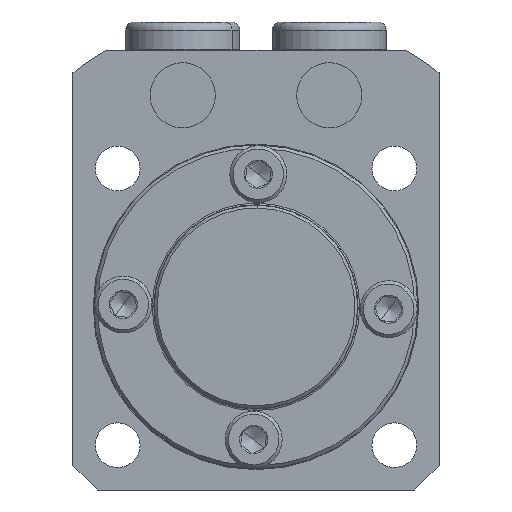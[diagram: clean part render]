
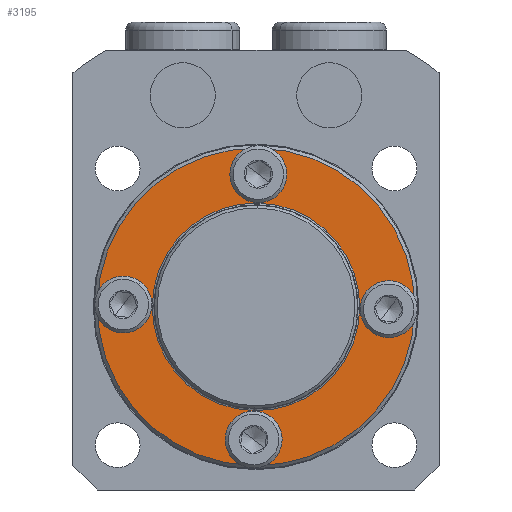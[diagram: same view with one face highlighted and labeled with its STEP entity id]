
A CAD part, front view. The second image highlights one B-rep face of the part: STEP entity #3195.
In plain terms, the highlighted planar face has unit normal (0, -1, 0).
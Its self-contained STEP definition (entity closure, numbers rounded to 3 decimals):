
#98 = EDGE_LOOP ( 'NONE', ( #1171, #1172 ) ) ;
#99 = EDGE_LOOP ( 'NONE', ( #1163, #1164 ) ) ;
#104 = EDGE_LOOP ( 'NONE', ( #1173, #1174 ) ) ;
#111 = EDGE_LOOP ( 'NONE', ( #1165, #1166 ) ) ;
#112 = EDGE_LOOP ( 'NONE', ( #1169, #1170 ) ) ;
#113 = EDGE_LOOP ( 'NONE', ( #1167, #1168 ) ) ;
#965 = CARTESIAN_POINT ( 'NONE',  ( 0., -4., -12.75 ) ) ;
#970 = CARTESIAN_POINT ( 'NONE',  ( 0., -4., 18.55 ) ) ;
#986 = CARTESIAN_POINT ( 'NONE',  ( 0., -4., 19.5 ) ) ;
#993 = CARTESIAN_POINT ( 'NONE',  ( -16.3, -4., -2.25 ) ) ;
#994 = CARTESIAN_POINT ( 'NONE',  ( 16.3, -4., 2.25 ) ) ;
#999 = CARTESIAN_POINT ( 'NONE',  ( 16.3, -4., -2.25 ) ) ;
#1032 = CARTESIAN_POINT ( 'NONE',  ( 0., -4., -14.05 ) ) ;
#1035 = CARTESIAN_POINT ( 'NONE',  ( 0., -4., -18.55 ) ) ;
#1041 = CARTESIAN_POINT ( 'NONE',  ( -16.3, -4., 2.25 ) ) ;
#1045 = CARTESIAN_POINT ( 'NONE',  ( 0., -4., -19.5 ) ) ;
#1051 = CARTESIAN_POINT ( 'NONE',  ( 0., -4., 14.05 ) ) ;
#1080 = CARTESIAN_POINT ( 'NONE',  ( 0., -4., 12.75 ) ) ;
#1163 = ORIENTED_EDGE ( 'NONE', *, *, #3118, .T. ) ;
#1164 = ORIENTED_EDGE ( 'NONE', *, *, #3082, .T. ) ;
#1165 = ORIENTED_EDGE ( 'NONE', *, *, #3119, .T. ) ;
#1166 = ORIENTED_EDGE ( 'NONE', *, *, #3089, .T. ) ;
#1167 = ORIENTED_EDGE ( 'NONE', *, *, #3120, .F. ) ;
#1168 = ORIENTED_EDGE ( 'NONE', *, *, #3099, .F. ) ;
#1169 = ORIENTED_EDGE ( 'NONE', *, *, #3121, .F. ) ;
#1170 = ORIENTED_EDGE ( 'NONE', *, *, #3103, .F. ) ;
#1171 = ORIENTED_EDGE ( 'NONE', *, *, #3122, .F. ) ;
#1172 = ORIENTED_EDGE ( 'NONE', *, *, #3107, .F. ) ;
#1173 = ORIENTED_EDGE ( 'NONE', *, *, #3123, .F. ) ;
#1174 = ORIENTED_EDGE ( 'NONE', *, *, #3111, .F. ) ;
#2903 = VERTEX_POINT ( 'NONE', #965 ) ;
#2908 = VERTEX_POINT ( 'NONE', #970 ) ;
#2924 = VERTEX_POINT ( 'NONE', #986 ) ;
#2931 = VERTEX_POINT ( 'NONE', #993 ) ;
#2932 = VERTEX_POINT ( 'NONE', #994 ) ;
#2937 = VERTEX_POINT ( 'NONE', #999 ) ;
#2970 = VERTEX_POINT ( 'NONE', #1032 ) ;
#2973 = VERTEX_POINT ( 'NONE', #1035 ) ;
#2979 = VERTEX_POINT ( 'NONE', #1041 ) ;
#2983 = VERTEX_POINT ( 'NONE', #1045 ) ;
#2989 = VERTEX_POINT ( 'NONE', #1051 ) ;
#3018 = VERTEX_POINT ( 'NONE', #1080 ) ;
#3082 = EDGE_CURVE ( 'NONE', #2903, #3018, #3788, .T. ) ;
#3089 = EDGE_CURVE ( 'NONE', #2983, #2924, #3800, .T. ) ;
#3099 = EDGE_CURVE ( 'NONE', #2932, #2937, #3816, .T. ) ;
#3103 = EDGE_CURVE ( 'NONE', #2970, #2973, #3822, .T. ) ;
#3107 = EDGE_CURVE ( 'NONE', #2979, #2931, #3828, .T. ) ;
#3111 = EDGE_CURVE ( 'NONE', #2908, #2989, #3834, .T. ) ;
#3118 = EDGE_CURVE ( 'NONE', #3018, #2903, #3839, .T. ) ;
#3119 = EDGE_CURVE ( 'NONE', #2924, #2983, #3846, .T. ) ;
#3120 = EDGE_CURVE ( 'NONE', #2937, #2932, #3848, .T. ) ;
#3121 = EDGE_CURVE ( 'NONE', #2973, #2970, #3850, .T. ) ;
#3122 = EDGE_CURVE ( 'NONE', #2931, #2979, #3852, .T. ) ;
#3123 = EDGE_CURVE ( 'NONE', #2989, #2908, #3854, .T. ) ;
#3195 = ADVANCED_FACE ( 'NONE', ( #5305, #5307, #5309, #5311, #5304, #5306 ), #5313, .F. ) ;
#3788 = CIRCLE ( 'NONE', #3793, 12.75 ) ;
#3793 = AXIS2_PLACEMENT_3D ( 'NONE', #4954, #4955, #4956 ) ;
#3800 = CIRCLE ( 'NONE', #3805, 19.5 ) ;
#3805 = AXIS2_PLACEMENT_3D ( 'NONE', #4976, #4977, #4978 ) ;
#3816 = CIRCLE ( 'NONE', #3820, 2.25 ) ;
#3820 = AXIS2_PLACEMENT_3D ( 'NONE', #5006, #5007, #5008 ) ;
#3822 = CIRCLE ( 'NONE', #3826, 2.25 ) ;
#3826 = AXIS2_PLACEMENT_3D ( 'NONE', #5018, #5019, #5020 ) ;
#3828 = CIRCLE ( 'NONE', #3832, 2.25 ) ;
#3832 = AXIS2_PLACEMENT_3D ( 'NONE', #5030, #5031, #5032 ) ;
#3834 = CIRCLE ( 'NONE', #3838, 2.25 ) ;
#3838 = AXIS2_PLACEMENT_3D ( 'NONE', #5044, #5045, #5046 ) ;
#3839 = CIRCLE ( 'NONE', #3847, 12.75 ) ;
#3846 = CIRCLE ( 'NONE', #3849, 19.5 ) ;
#3847 = AXIS2_PLACEMENT_3D ( 'NONE', #5061, #5062, #5063 ) ;
#3848 = CIRCLE ( 'NONE', #3851, 2.25 ) ;
#3849 = AXIS2_PLACEMENT_3D ( 'NONE', #5064, #5065, #5066 ) ;
#3850 = CIRCLE ( 'NONE', #3853, 2.25 ) ;
#3851 = AXIS2_PLACEMENT_3D ( 'NONE', #5067, #5068, #5069 ) ;
#3852 = CIRCLE ( 'NONE', #3855, 2.25 ) ;
#3853 = AXIS2_PLACEMENT_3D ( 'NONE', #5070, #5071, #5072 ) ;
#3854 = CIRCLE ( 'NONE', #3857, 2.25 ) ;
#3855 = AXIS2_PLACEMENT_3D ( 'NONE', #5073, #5074, #5075 ) ;
#3857 = AXIS2_PLACEMENT_3D ( 'NONE', #5076, #5077, #5078 ) ;
#3964 = AXIS2_PLACEMENT_3D ( 'NONE', #5310, #5314, #5315 ) ;
#4954 = CARTESIAN_POINT ( 'NONE',  ( 0., -4., 0. ) ) ;
#4955 = DIRECTION ( 'NONE',  ( 0., 1., 0. ) ) ;
#4956 = DIRECTION ( 'NONE',  ( 0., 0., 1. ) ) ;
#4976 = CARTESIAN_POINT ( 'NONE',  ( 0., -4., 0. ) ) ;
#4977 = DIRECTION ( 'NONE',  ( 0., -1., 0. ) ) ;
#4978 = DIRECTION ( 'NONE',  ( 0., 0., 1. ) ) ;
#5006 = CARTESIAN_POINT ( 'NONE',  ( 16.3, -4., 0. ) ) ;
#5007 = DIRECTION ( 'NONE',  ( 0., -1., 0. ) ) ;
#5008 = DIRECTION ( 'NONE',  ( -1., 0., 0. ) ) ;
#5018 = CARTESIAN_POINT ( 'NONE',  ( 0., -4., -16.3 ) ) ;
#5019 = DIRECTION ( 'NONE',  ( 0., -1., 0. ) ) ;
#5020 = DIRECTION ( 'NONE',  ( 0., 0., 1. ) ) ;
#5030 = CARTESIAN_POINT ( 'NONE',  ( -16.3, -4., 0. ) ) ;
#5031 = DIRECTION ( 'NONE',  ( 0., -1., 0. ) ) ;
#5032 = DIRECTION ( 'NONE',  ( 1., 0., 0. ) ) ;
#5044 = CARTESIAN_POINT ( 'NONE',  ( 0., -4., 16.3 ) ) ;
#5045 = DIRECTION ( 'NONE',  ( 0., -1., 0. ) ) ;
#5046 = DIRECTION ( 'NONE',  ( 0., 0., -1. ) ) ;
#5061 = CARTESIAN_POINT ( 'NONE',  ( 0., -4., 0. ) ) ;
#5062 = DIRECTION ( 'NONE',  ( 0., 1., 0. ) ) ;
#5063 = DIRECTION ( 'NONE',  ( 0., 0., 1. ) ) ;
#5064 = CARTESIAN_POINT ( 'NONE',  ( 0., -4., 0. ) ) ;
#5065 = DIRECTION ( 'NONE',  ( 0., -1., 0. ) ) ;
#5066 = DIRECTION ( 'NONE',  ( 0., 0., 1. ) ) ;
#5067 = CARTESIAN_POINT ( 'NONE',  ( 16.3, -4., 0. ) ) ;
#5068 = DIRECTION ( 'NONE',  ( 0., -1., 0. ) ) ;
#5069 = DIRECTION ( 'NONE',  ( -1., 0., 0. ) ) ;
#5070 = CARTESIAN_POINT ( 'NONE',  ( 0., -4., -16.3 ) ) ;
#5071 = DIRECTION ( 'NONE',  ( 0., -1., 0. ) ) ;
#5072 = DIRECTION ( 'NONE',  ( 0., 0., 1. ) ) ;
#5073 = CARTESIAN_POINT ( 'NONE',  ( -16.3, -4., 0. ) ) ;
#5074 = DIRECTION ( 'NONE',  ( 0., -1., 0. ) ) ;
#5075 = DIRECTION ( 'NONE',  ( 1., 0., 0. ) ) ;
#5076 = CARTESIAN_POINT ( 'NONE',  ( 0., -4., 16.3 ) ) ;
#5077 = DIRECTION ( 'NONE',  ( 0., -1., 0. ) ) ;
#5078 = DIRECTION ( 'NONE',  ( 0., 0., -1. ) ) ;
#5304 = FACE_BOUND ( 'NONE', #98, .T. ) ;
#5305 = FACE_BOUND ( 'NONE', #99, .T. ) ;
#5306 = FACE_BOUND ( 'NONE', #104, .T. ) ;
#5307 = FACE_OUTER_BOUND ( 'NONE', #111, .T. ) ;
#5309 = FACE_BOUND ( 'NONE', #113, .T. ) ;
#5310 = CARTESIAN_POINT ( 'NONE',  ( 0., -4., 0. ) ) ;
#5311 = FACE_BOUND ( 'NONE', #112, .T. ) ;
#5313 = PLANE ( 'NONE',  #3964 ) ;
#5314 = DIRECTION ( 'NONE',  ( 0., 1., 0. ) ) ;
#5315 = DIRECTION ( 'NONE',  ( 0., 0., 1. ) ) ;
